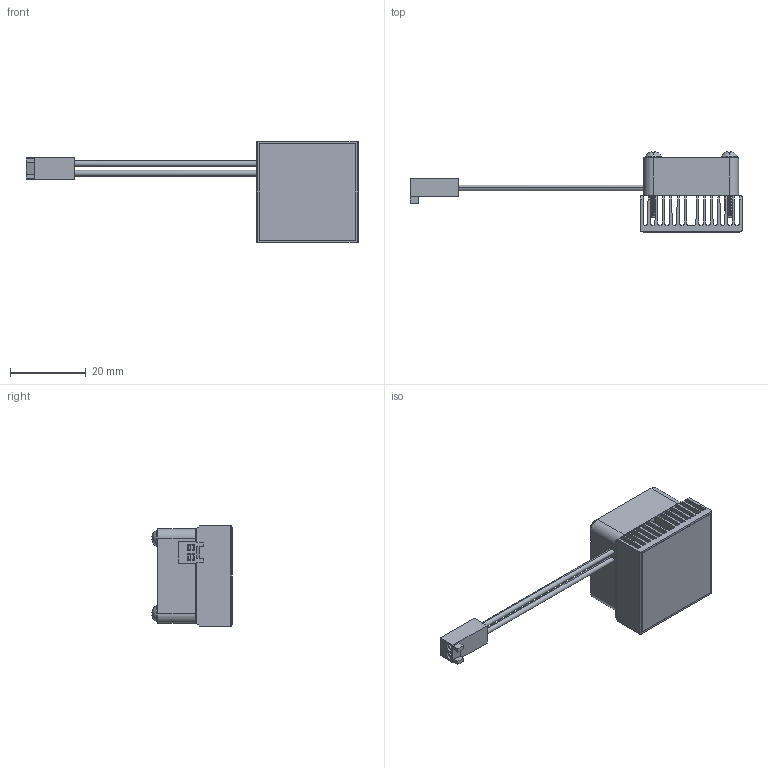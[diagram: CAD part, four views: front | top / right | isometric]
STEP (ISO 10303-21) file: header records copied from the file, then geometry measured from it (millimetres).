
FILE_DESCRIPTION (( 'STEP AP214' ), '1' );
FILE_NAME ('FI27-1.7.STEP', '2023-03-21T23:39:31', ( '' ), ( '' ), 'SwSTEP 2.0', 'SolidWorks 2020', '' );
FILE_SCHEMA (( 'AUTOMOTIVE_DESIGN' ));
Length unit declared in the file: millimetre
Products named in the file (1): FI27-1.7
Bounding box: 87.6 x 21.12 x 26.5 mm (x, y, z)
Volume: 6822.1 mm3; surface area: 13928.8 mm2
Topology: 7 solids, 7 shells, 807 faces, 2350 edges, 1564 vertices
Faces by surface type: cylinder 370, plane 259, bspline 122, cone 40, sphere 8, torus 8
Entity records: 61246 total; most frequent: CARTESIAN_POINT 33824, ORIENTED_EDGE 4700, DIRECTION 3053, EDGE_CURVE 2350, VERTEX_POINT 1564, VECTOR 1069, LINE 1069, AXIS2_PLACEMENT_3D 992
